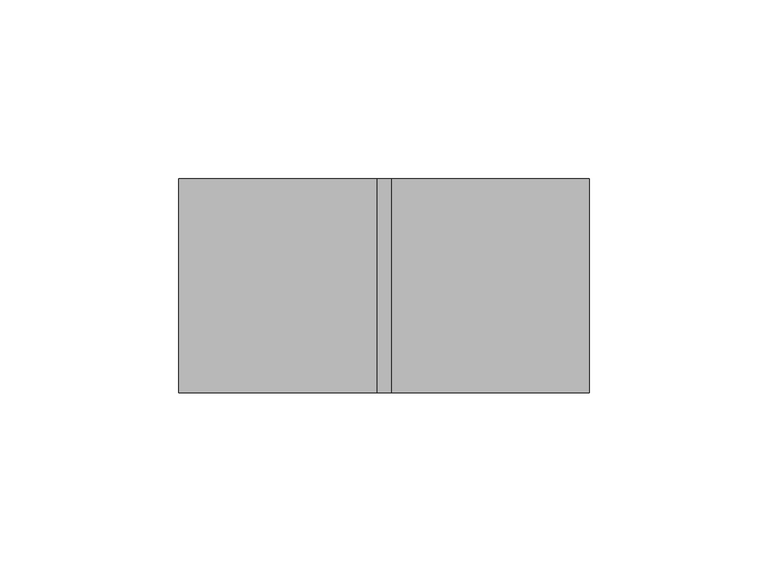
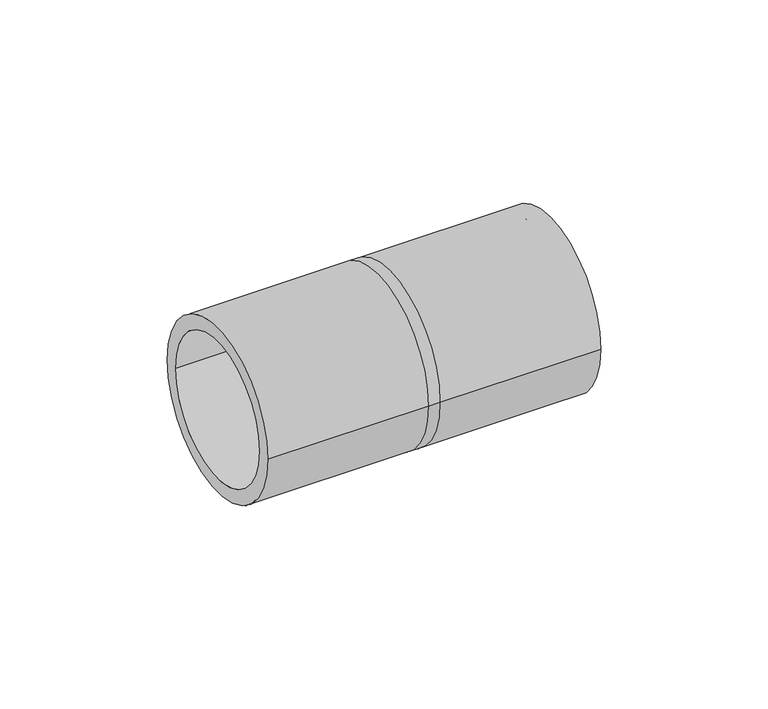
"""IFC4 building model written with IfcOpenShell, lengths in millimetres: cable carrier fitting geometry, КНС_МуфтаТрубаТруба_IP67_DKC : Коробка."""

from ifc_helpers import new_model, si_unit, frame, origin, place, context, project, spatial, polyline, circle_curve, source, transform, mapped, element, save
from ifc_brep_helpers import plane_surface, cylinder_surface, revolved_surface, advanced_brep


def cable_carrier_fitting_29cb25d6(model_context):
    return source(origin(), model_context, "Body", "AdvancedBrep", [
        advanced_brep(
        [(-57.5, -30.0, 0.0), (-57.5, 30.0, 0.0), (-57.5, -25.0, 0.0), (-57.5, 25.0, 0.0), (-2.0, 25.0, 0.0), (-2.0, -25.0, 0.0), (-2.0, 30.0, 0.0), (-2.0, -30.0, 0.0), (2.0, -25.0, 0.0), (2.0, 25.0, 0.0), (2.0, -30.0, 0.0), (2.0, 30.0, 0.0), (57.5, -30.0, 0.0), (57.5, 30.0, 0.0), (57.5, -25.0, 0.0), (57.5, 25.0, 0.0)],
        [
            (0, 1, circle_curve(frame((-57.5, 0.0, 0.0), z_axis=(-1.0, 0.0, 0.0), x_axis=(0.0, 1.0, 0.0)), 30.0)),
            (1, 0, circle_curve(frame((-57.5, 0.0, 0.0), z_axis=(-1.0, 0.0, 0.0), x_axis=(0.0, 1.0, 0.0)), 30.0)),
            (2, 3, circle_curve(frame((-57.5, 0.0, 0.0), z_axis=(1.0, 0.0, 0.0), x_axis=(0.0, 1.0, 0.0)), 25.0)),
            (3, 2, circle_curve(frame((-57.5, 0.0, 0.0), z_axis=(1.0, 0.0, 0.0), x_axis=(0.0, 1.0, 0.0)), 25.0)),
            (3, 4),
            (4, 5, circle_curve(frame((-2.0, 0.0, 0.0), z_axis=(1.0, 0.0, 0.0), x_axis=(0.0, 1.0, 0.0)), 25.0)),
            (5, 2),
            (5, 4, circle_curve(frame((-2.0, 0.0, 0.0), z_axis=(1.0, 0.0, 0.0), x_axis=(0.0, 1.0, 0.0)), 25.0)),
            (1, 6),
            (6, 7, circle_curve(frame((-2.0, 0.0, 0.0), z_axis=(-1.0, 0.0, 0.0), x_axis=(0.0, 1.0, 0.0)), 30.0)),
            (7, 0),
            (7, 6, circle_curve(frame((-2.0, 0.0, 0.0), z_axis=(-1.0, 0.0, 0.0), x_axis=(0.0, 1.0, 0.0)), 30.0)),
            (5, 8),
            (8, 9, circle_curve(frame((2.0, 0.0, 0.0), z_axis=(1.0, 0.0, 0.0), x_axis=(0.0, 1.0, 0.0)), 25.0)),
            (9, 4),
            (9, 8, circle_curve(frame((2.0, 0.0, 0.0), z_axis=(1.0, 0.0, 0.0), x_axis=(0.0, 1.0, 0.0)), 25.0)),
            (7, 10),
            (10, 11, circle_curve(frame((2.0, 0.0, 0.0), z_axis=(-1.0, 0.0, 0.0), x_axis=(0.0, 1.0, 0.0)), 30.0)),
            (11, 6),
            (11, 10, circle_curve(frame((2.0, 0.0, 0.0), z_axis=(-1.0, 0.0, 0.0), x_axis=(0.0, 1.0, 0.0)), 30.0)),
            (12, 13, circle_curve(frame((57.5, 0.0, 0.0), z_axis=(1.0, 0.0, 0.0), x_axis=(0.0, 1.0, 0.0)), 30.0)),
            (13, 12, circle_curve(frame((57.5, 0.0, 0.0), z_axis=(1.0, 0.0, 0.0), x_axis=(0.0, 1.0, 0.0)), 30.0)),
            (14, 15, circle_curve(frame((57.5, 0.0, 0.0), z_axis=(-1.0, 0.0, 0.0), x_axis=(0.0, 1.0, 0.0)), 25.0)),
            (15, 14, circle_curve(frame((57.5, 0.0, 0.0), z_axis=(-1.0, 0.0, 0.0), x_axis=(0.0, 1.0, 0.0)), 25.0)),
            (13, 11),
            (10, 12),
            (15, 9),
            (8, 14),
        ],
        [
            plane_surface(frame((-57.5, 0.0, 0.0), z_axis=(-1.0, 0.0, 0.0), x_axis=(0.0, 0.0, 1.0))),
            revolved_surface(polyline([(-2.0, 25.0, 0.0), (-57.5, 25.0, 0.0)]), (-57.5, 0.0, 0.0), (1.0, 0.0, 0.0)),
            cylinder_surface(frame((-57.5, 0.0, 0.0), z_axis=(-1.0, 0.0, 0.0), x_axis=(0.0, 1.0, 0.0)), 30.0),
            revolved_surface(polyline([(2.0, 25.0, 0.0), (-2.0, 25.0, 0.0)]), (-2.0, 0.0, 0.0), (1.0, 0.0, 0.0)),
            cylinder_surface(frame((-2.0, 0.0, 0.0), z_axis=(-1.0, 0.0, 0.0), x_axis=(0.0, 1.0, 0.0)), 30.0),
            plane_surface(frame((57.5, 0.0, 0.0), z_axis=(1.0, 0.0, 0.0), x_axis=(0.0, 0.0, 1.0))),
            cylinder_surface(frame((2.0, 0.0, 0.0), z_axis=(-1.0, 0.0, 0.0), x_axis=(0.0, 1.0, 0.0)), 30.0),
            revolved_surface(polyline([(57.5, 25.0, 0.0), (2.0, 25.0, 0.0)]), (2.0, 0.0, 0.0), (1.0, 0.0, 0.0)),
        ],
        [
            (0, [[1, 2], [3, 4]]),
            (1, [[-4, 5, 6, 7]]),
            (1, [[-3, -7, 8, -5]]),
            (2, [[-2, 9, 10, 11]]),
            (2, [[-1, -11, 12, -9]]),
            (3, [[13, 14, 15, -8]]),
            (3, [[-13, -6, -15, 16]]),
            (4, [[17, 18, 19, -12]]),
            (4, [[-17, -10, -19, 20]]),
            (5, [[21, 22], [23, 24]]),
            (6, [[-22, 25, -18, 26]]),
            (6, [[-21, -26, -20, -25]]),
            (7, [[-24, 27, -14, 28]]),
            (7, [[-23, -28, -16, -27]]),
        ],
    ),
    ])


if __name__ == "__main__":
    model = new_model("IFC4")
    model_context = context("Model", 3, world=origin())
    ifc_project = project(units=[si_unit("LENGTHUNIT", "METRE", prefix="MILLI")], contexts=[model_context])
    site = spatial("IfcSite", under=ifc_project)
    building = spatial("IfcBuilding", under=site)
    placement = place(None, origin())
    cable_carrier_fitting_shape = cable_carrier_fitting_29cb25d6(model_context)
    element("IfcCableCarrierFitting", 1, ObjectType="КНС_МуфтаТрубаТруба_IP67_DKC : Коробка", at=placement, inside=building, context=model_context, shape_type="MappedRepresentation", body=[
        mapped(cable_carrier_fitting_shape, transform((0.0, 0.0, 0.0), x_axis=(1.0, 0.0, 0.0), y_axis=(0.0, 1.0, 0.0), z_axis=(0.0, 0.0, 1.0))),
    ])
    save(model, "model.ifc")
